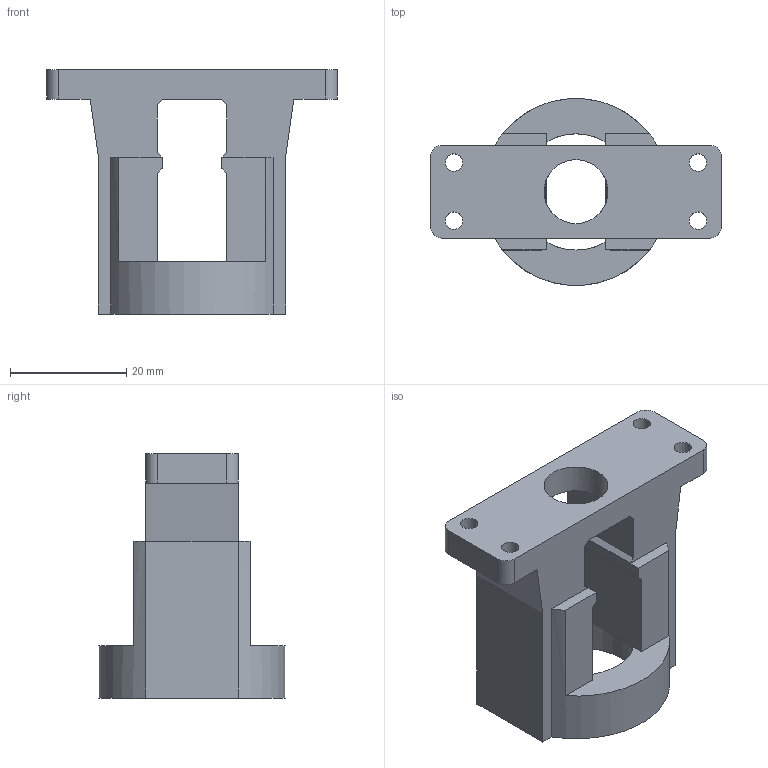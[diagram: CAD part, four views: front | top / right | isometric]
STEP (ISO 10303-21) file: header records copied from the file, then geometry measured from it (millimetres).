
FILE_DESCRIPTION(/* description */ (''),/* implementation_level */ '2;1');
FILE_NAME(/* name */ 'C:\Users\felldings\Documents\Inventor\fabacademy-final\motor_holder.step',/* time_stamp */ '2018-06-09T14:55:38+02:00',/* author */ ('felldings'),/* organization */ (''),/* preprocessor_version */ 'ST-DEVELOPER v17',/* originating_system */ 'Autodesk Inventor 2019',/* authorisation */ '');
FILE_SCHEMA (('AUTOMOTIVE_DESIGN { 1 0 10303 214 3 1 1 }'));
Length unit declared in the file: millimetre
Products named in the file (1): motor_holder
Bounding box: 50 x 32.09 x 42 mm (x, y, z)
Volume: 18013.4 mm3; surface area: 7634.5 mm2
Topology: 1 solids, 1 shells, 56 faces, 173 edges, 116 vertices
Faces by surface type: plane 39, cylinder 13, cone 4
Full cylindrical faces by diameter (mm): 3 x4, 11 x1, 20 x1, 22.2 x1
Entity records: 2002 total; most frequent: CARTESIAN_POINT 354, ORIENTED_EDGE 346, DIRECTION 329, EDGE_CURVE 173, LINE 123, VECTOR 123, VERTEX_POINT 116, AXIS2_PLACEMENT_3D 103
